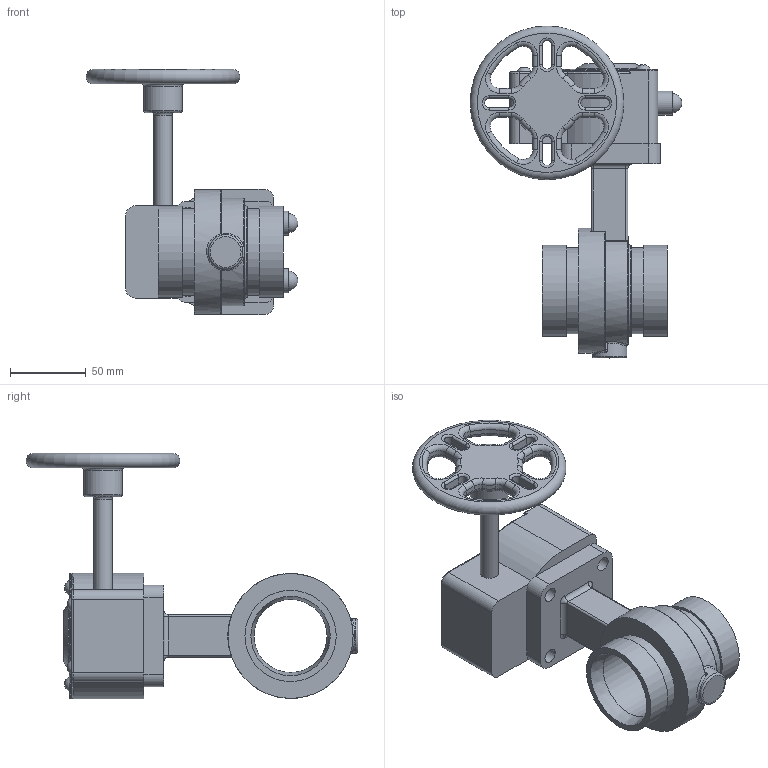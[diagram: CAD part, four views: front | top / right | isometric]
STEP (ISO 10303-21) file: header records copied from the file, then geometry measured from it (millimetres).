
FILE_DESCRIPTION(/* description */ ('Vic Series 461 Vic-300 MasterSeal SS Butterfly Valve w/Gear Op','CAx-IF Rec.Pracs.---Representation and Presentation of Product Manufacturing Information (PMI)---4.0---2014-10-13'),/* implementation_level */ '2;1');
FILE_NAME(/* name */ 'C:\Users\kkamble\AppData\Roaming\Autodesk\ApplicationPlugins\Back Up\Victaulic_SS-OGS_Valve Butterfly Vic-300 Masterseal GO_Series 461 (OGS)\Victaulic_SS-OGS_Valve Butterfly Vic-300 Masterseal GO_2 (50).stp',/* time_stamp */ '2020-09-02T14:50:47+05:00',/* author */ ('jbrannon'),/* organization */ ('Victaulic'),/* preprocessor_version */ 'ST-DEVELOPER v17.2',/* originating_system */ 'Autodesk Inventor 2019',/* authorisation */ '');
FILE_SCHEMA (('AP242_MANAGED_MODEL_BASED_3D_ENGINEERING_MIM_LF { 1 0 10303 442 1 1 4 }'));
Length unit declared in the file: inch
Products named in the file (3): 461-02.0; 461-02.0_1; 461-02.0_2
Assembly tree (2 placements, depth 2):
  461-02.0
    461-02.0_1
    461-02.0_2
Bounding box: 139.95 x 219.2 x 162.05 mm (x, y, z)
Volume: 631804.9 mm3; surface area: 110475.4 mm2
Topology: 2 solids, 2 shells, 367 faces, 864 edges, 524 vertices
Faces by surface type: cylinder 142, plane 96, torus 94, bspline 20, sphere 12, cone 3
Full cylindrical faces by diameter (mm): 7.938 x4, 8.128 x1, 9.652 x5, 11.938 x1, 15.875 x2, 22.86 x1, 25.4 x1, 44.45 x1, 48.26 x1, 54.102 x1, 57.15 x2, 60.325 x3, 82.55 x1
Entity records: 11773 total; most frequent: CARTESIAN_POINT 2527, DIRECTION 2027, ORIENTED_EDGE 1718, EDGE_CURVE 859, AXIS2_PLACEMENT_3D 858, VERTEX_POINT 525, CIRCLE 502, EDGE_LOOP 422
